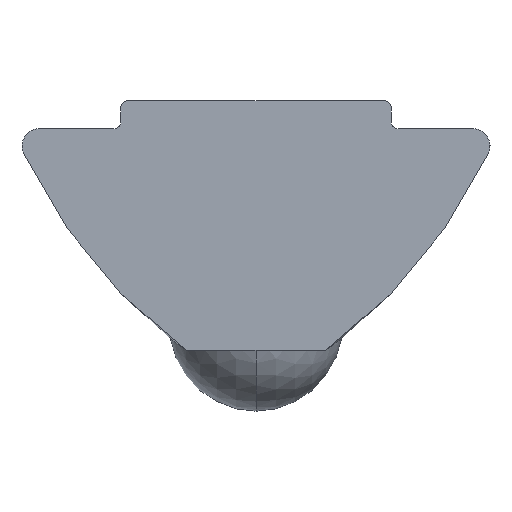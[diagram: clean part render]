
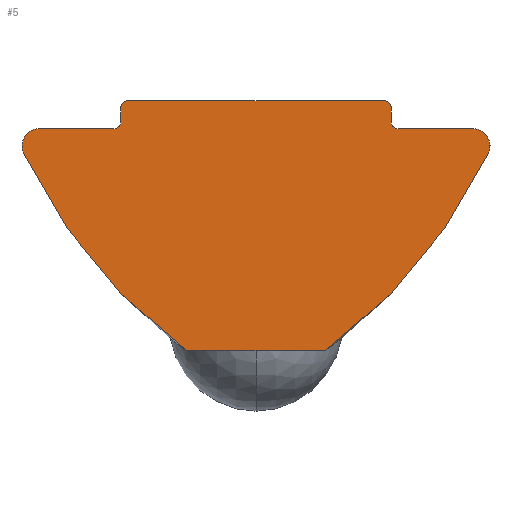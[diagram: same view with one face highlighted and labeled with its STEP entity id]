
A CAD part, left-side view. The second image highlights one B-rep face of the part: STEP entity #5.
In plain terms, the highlighted planar face has unit normal (-1, 0, 0).
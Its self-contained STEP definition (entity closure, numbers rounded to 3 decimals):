
#3 = CARTESIAN_POINT ( 'NONE',  ( -7.5, -6.245, -1.305 ) ) ;
#4 = VERTEX_POINT ( 'NONE', #604 ) ;
#5 = ADVANCED_FACE ( 'NONE', ( #487 ), #814, .F. ) ;
#7 = VERTEX_POINT ( 'NONE', #425 ) ;
#12 = DIRECTION ( 'NONE',  ( 1., 0., 0. ) ) ;
#17 = CARTESIAN_POINT ( 'NONE',  ( -7.5, 6.245, -1.305 ) ) ;
#20 = LINE ( 'NONE', #294, #486 ) ;
#23 = CARTESIAN_POINT ( 'NONE',  ( -7.5, -3.7, -0.2 ) ) ;
#28 = CARTESIAN_POINT ( 'NONE',  ( -7.5, -4.1, -0.6 ) ) ;
#31 = EDGE_CURVE ( 'NONE', #280, #202, #20, .T. ) ;
#37 = DIRECTION ( 'NONE',  ( 0., 0., -1. ) ) ;
#41 = VERTEX_POINT ( 'NONE', #478 ) ;
#54 = CARTESIAN_POINT ( 'NONE',  ( -7.5, -6.85, 4.91 ) ) ;
#57 = DIRECTION ( 'NONE',  ( 0., 0., -1. ) ) ;
#62 = EDGE_CURVE ( 'NONE', #100, #614, #825, .T. ) ;
#76 = DIRECTION ( 'NONE',  ( 1., 0., 0. ) ) ;
#84 = CIRCLE ( 'NONE', #182, 0.2 ) ;
#86 = ORIENTED_EDGE ( 'NONE', *, *, #741, .T. ) ;
#89 = EDGE_CURVE ( 'NONE', #743, #192, #111, .T. ) ;
#92 = CARTESIAN_POINT ( 'NONE',  ( -7.5, -4.1, -0.8 ) ) ;
#100 = VERTEX_POINT ( 'NONE', #260 ) ;
#111 = CIRCLE ( 'NONE', #408, 15. ) ;
#127 = CARTESIAN_POINT ( 'NONE',  ( -7.5, -3.7, 0. ) ) ;
#136 = EDGE_CURVE ( 'NONE', #739, #4, #331, .T. ) ;
#140 = ORIENTED_EDGE ( 'NONE', *, *, #365, .T. ) ;
#154 = DIRECTION ( 'NONE',  ( 0., 0., -1. ) ) ;
#155 = ORIENTED_EDGE ( 'NONE', *, *, #213, .F. ) ;
#160 = CARTESIAN_POINT ( 'NONE',  ( -7.5, 6.245, -0.8 ) ) ;
#163 = EDGE_LOOP ( 'NONE', ( #831, #342, #86, #623, #497, #199, #539, #272, #868, #266, #140, #242, #279, #155 ) ) ;
#174 = CIRCLE ( 'NONE', #483, 0.2 ) ;
#179 = CARTESIAN_POINT ( 'NONE',  ( -7.5, -2.001, -7.2 ) ) ;
#180 = DIRECTION ( 'NONE',  ( 0., 0., -1. ) ) ;
#181 = DIRECTION ( 'NONE',  ( 0., 0., -1. ) ) ;
#182 = AXIS2_PLACEMENT_3D ( 'NONE', #517, #787, #181 ) ;
#188 = CARTESIAN_POINT ( 'NONE',  ( -7.5, 4.1, -0.6 ) ) ;
#190 = EDGE_CURVE ( 'NONE', #4, #649, #84, .T. ) ;
#192 = VERTEX_POINT ( 'NONE', #591 ) ;
#193 = DIRECTION ( 'NONE',  ( 0., 0., -1. ) ) ;
#198 = AXIS2_PLACEMENT_3D ( 'NONE', #646, #250, #838 ) ;
#199 = ORIENTED_EDGE ( 'NONE', *, *, #89, .F. ) ;
#202 = VERTEX_POINT ( 'NONE', #257 ) ;
#213 = EDGE_CURVE ( 'NONE', #649, #665, #393, .T. ) ;
#225 = DIRECTION ( 'NONE',  ( 0., 0., -1. ) ) ;
#241 = VECTOR ( 'NONE', #756, 1000. ) ;
#242 = ORIENTED_EDGE ( 'NONE', *, *, #62, .F. ) ;
#249 = DIRECTION ( 'NONE',  ( 1., 0., 0. ) ) ;
#250 = DIRECTION ( 'NONE',  ( 1., 0., 0. ) ) ;
#255 = LINE ( 'NONE', #179, #812 ) ;
#256 = VECTOR ( 'NONE', #808, 1000. ) ;
#257 = CARTESIAN_POINT ( 'NONE',  ( -7.5, 4.1, -0.8 ) ) ;
#260 = CARTESIAN_POINT ( 'NONE',  ( -7.5, -3.9, -0.2 ) ) ;
#266 = ORIENTED_EDGE ( 'NONE', *, *, #839, .F. ) ;
#272 = ORIENTED_EDGE ( 'NONE', *, *, #415, .F. ) ;
#279 = ORIENTED_EDGE ( 'NONE', *, *, #658, .F. ) ;
#280 = VERTEX_POINT ( 'NONE', #160 ) ;
#283 = EDGE_CURVE ( 'NONE', #192, #280, #435, .T. ) ;
#284 = CARTESIAN_POINT ( 'NONE',  ( -7.5, -3.9, -0.2 ) ) ;
#292 = DIRECTION ( 'NONE',  ( 1., 0., 0. ) ) ;
#294 = CARTESIAN_POINT ( 'NONE',  ( -7.5, 6.245, -0.8 ) ) ;
#311 = CIRCLE ( 'NONE', #198, 15. ) ;
#315 = CARTESIAN_POINT ( 'NONE',  ( -7.5, 3.7, 0. ) ) ;
#323 = CARTESIAN_POINT ( 'NONE',  ( -7.5, 2.001, -7.2 ) ) ;
#325 = AXIS2_PLACEMENT_3D ( 'NONE', #358, #12, #154 ) ;
#326 = AXIS2_PLACEMENT_3D ( 'NONE', #17, #292, #763 ) ;
#327 = CARTESIAN_POINT ( 'NONE',  ( -7.5, 3.7, 0. ) ) ;
#331 = LINE ( 'NONE', #867, #256 ) ;
#334 = AXIS2_PLACEMENT_3D ( 'NONE', #188, #453, #193 ) ;
#342 = ORIENTED_EDGE ( 'NONE', *, *, #136, .F. ) ;
#344 = DIRECTION ( 'NONE',  ( 0., -1., 0. ) ) ;
#353 = VECTOR ( 'NONE', #864, 1000. ) ;
#358 = CARTESIAN_POINT ( 'NONE',  ( -7.5, 3.7, -0.2 ) ) ;
#365 = EDGE_CURVE ( 'NONE', #502, #614, #396, .T. ) ;
#368 = CARTESIAN_POINT ( 'NONE',  ( -7.5, -2.001, -7.2 ) ) ;
#378 = DIRECTION ( 'NONE',  ( 1., 0., 0. ) ) ;
#393 = LINE ( 'NONE', #327, #353 ) ;
#396 = CIRCLE ( 'NONE', #450, 0.2 ) ;
#408 = AXIS2_PLACEMENT_3D ( 'NONE', #54, #859, #180 ) ;
#415 = EDGE_CURVE ( 'NONE', #7, #592, #311, .T. ) ;
#425 = CARTESIAN_POINT ( 'NONE',  ( -7.5, -6.701, -1.522 ) ) ;
#435 = CIRCLE ( 'NONE', #326, 0.505 ) ;
#437 = EDGE_CURVE ( 'NONE', #592, #743, #255, .T. ) ;
#450 = AXIS2_PLACEMENT_3D ( 'NONE', #28, #378, #37 ) ;
#453 = DIRECTION ( 'NONE',  ( 1., 0., 0. ) ) ;
#468 = CARTESIAN_POINT ( 'NONE',  ( -7.5, -4.1, -0.8 ) ) ;
#478 = CARTESIAN_POINT ( 'NONE',  ( -7.5, -6.245, -0.8 ) ) ;
#483 = AXIS2_PLACEMENT_3D ( 'NONE', #23, #249, #57 ) ;
#486 = VECTOR ( 'NONE', #344, 1000. ) ;
#487 = FACE_OUTER_BOUND ( 'NONE', #163, .T. ) ;
#497 = ORIENTED_EDGE ( 'NONE', *, *, #283, .F. ) ;
#502 = VERTEX_POINT ( 'NONE', #92 ) ;
#506 = AXIS2_PLACEMENT_3D ( 'NONE', #3, #76, #807 ) ;
#515 = CIRCLE ( 'NONE', #334, 0.2 ) ;
#517 = CARTESIAN_POINT ( 'NONE',  ( -7.5, 3.7, -0.2 ) ) ;
#519 = CARTESIAN_POINT ( 'NONE',  ( -7.5, 3.9, -0.6 ) ) ;
#539 = ORIENTED_EDGE ( 'NONE', *, *, #437, .F. ) ;
#574 = VECTOR ( 'NONE', #225, 1000. ) ;
#591 = CARTESIAN_POINT ( 'NONE',  ( -7.5, 6.701, -1.522 ) ) ;
#592 = VERTEX_POINT ( 'NONE', #368 ) ;
#604 = CARTESIAN_POINT ( 'NONE',  ( -7.5, 3.9, -0.2 ) ) ;
#614 = VERTEX_POINT ( 'NONE', #639 ) ;
#623 = ORIENTED_EDGE ( 'NONE', *, *, #31, .F. ) ;
#639 = CARTESIAN_POINT ( 'NONE',  ( -7.5, -3.9, -0.6 ) ) ;
#646 = CARTESIAN_POINT ( 'NONE',  ( -7.5, 6.85, 4.91 ) ) ;
#649 = VERTEX_POINT ( 'NONE', #315 ) ;
#658 = EDGE_CURVE ( 'NONE', #665, #100, #174, .T. ) ;
#665 = VERTEX_POINT ( 'NONE', #127 ) ;
#681 = LINE ( 'NONE', #468, #241 ) ;
#739 = VERTEX_POINT ( 'NONE', #519 ) ;
#741 = EDGE_CURVE ( 'NONE', #739, #202, #515, .T. ) ;
#743 = VERTEX_POINT ( 'NONE', #323 ) ;
#756 = DIRECTION ( 'NONE',  ( 0., -1., 0. ) ) ;
#761 = CIRCLE ( 'NONE', #506, 0.505 ) ;
#763 = DIRECTION ( 'NONE',  ( 0., 0., -1. ) ) ;
#787 = DIRECTION ( 'NONE',  ( 1., 0., 0. ) ) ;
#791 = DIRECTION ( 'NONE',  ( 0., 1., 0. ) ) ;
#807 = DIRECTION ( 'NONE',  ( 0., 0., -1. ) ) ;
#808 = DIRECTION ( 'NONE',  ( 0., 0., 1. ) ) ;
#812 = VECTOR ( 'NONE', #791, 1000. ) ;
#814 = PLANE ( 'NONE',  #325 ) ;
#825 = LINE ( 'NONE', #284, #574 ) ;
#827 = EDGE_CURVE ( 'NONE', #41, #7, #761, .T. ) ;
#831 = ORIENTED_EDGE ( 'NONE', *, *, #190, .F. ) ;
#838 = DIRECTION ( 'NONE',  ( 0., 0., -1. ) ) ;
#839 = EDGE_CURVE ( 'NONE', #502, #41, #681, .T. ) ;
#859 = DIRECTION ( 'NONE',  ( 1., 0., 0. ) ) ;
#864 = DIRECTION ( 'NONE',  ( 0., -1., 0. ) ) ;
#867 = CARTESIAN_POINT ( 'NONE',  ( -7.5, 3.9, -0.6 ) ) ;
#868 = ORIENTED_EDGE ( 'NONE', *, *, #827, .F. ) ;
